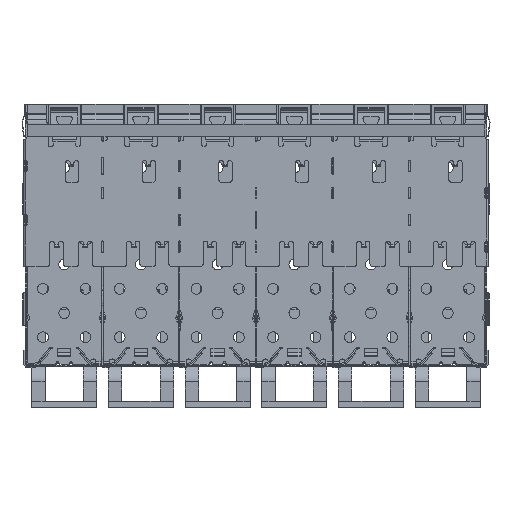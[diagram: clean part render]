
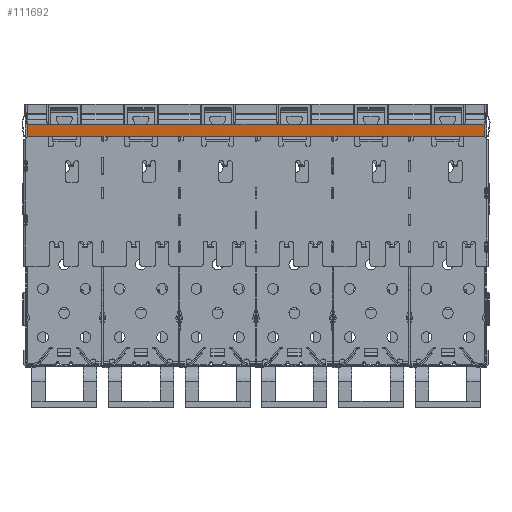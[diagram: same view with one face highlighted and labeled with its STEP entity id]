
A CAD part, front view. The second image highlights one B-rep face of the part: STEP entity #111692.
In plain terms, the highlighted planar face has unit normal (0, -0.992, -0.129).
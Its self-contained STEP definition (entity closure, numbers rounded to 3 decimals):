
#17789=DIRECTION('',(0.,-0.129,0.992));
#17790=VECTOR('',#17789,2.196);
#17791=CARTESIAN_POINT('',(1.667,2.052,-6.));
#17792=LINE('',#17791,#17790);
#17793=DIRECTION('',(1.,0.,0.));
#17794=VECTOR('',#17793,84.9);
#17795=CARTESIAN_POINT('',(1.667,1.768,
-3.823));
#17796=LINE('',#17795,#17794);
#17797=DIRECTION('',(0.,0.129,-0.992));
#17798=VECTOR('',#17797,2.196);
#17799=CARTESIAN_POINT('',(86.567,1.768,
-3.823));
#17800=LINE('',#17799,#17798);
#17801=DIRECTION('',(1.,0.,0.));
#17802=VECTOR('',#17801,14.173);
#17803=CARTESIAN_POINT('',(1.667,2.052,-6.));
#17804=LINE('',#17803,#17802);
#17805=DIRECTION('',(1.,0.,0.));
#17806=VECTOR('',#17805,13.246);
#17807=CARTESIAN_POINT('',(73.322,2.057,
-5.999));
#17808=LINE('',#17807,#17806);
#17809=DIRECTION('',(1.,0.,0.));
#17810=VECTOR('',#17809,13.768);
#17811=CARTESIAN_POINT('',(59.072,2.057,
-5.999));
#17812=LINE('',#17811,#17810);
#17813=DIRECTION('',(1.,0.,0.));
#17814=VECTOR('',#17813,13.768);
#17815=CARTESIAN_POINT('',(44.822,2.057,
-5.999));
#17816=LINE('',#17815,#17814);
#17817=DIRECTION('',(1.,0.,0.));
#17818=VECTOR('',#17817,13.768);
#17819=CARTESIAN_POINT('',(30.572,2.057,
-5.999));
#17820=LINE('',#17819,#17818);
#17821=DIRECTION('',(1.,0.,0.));
#17822=VECTOR('',#17821,13.768);
#17823=CARTESIAN_POINT('',(16.322,2.057,
-5.999));
#17824=LINE('',#17823,#17822);
#17825=CARTESIAN_POINT('',(15.84,2.057,
-5.999));
#17840=DIRECTION('',(1.,-0.001,0.));
#17841=VECTOR('',#17840,0.482);
#17842=CARTESIAN_POINT('',(15.84,2.057,
-5.999));
#17843=LINE('',#17842,#17841);
#21294=CARTESIAN_POINT('',(72.84,2.057,
-5.999));
#21309=DIRECTION('',(1.,-0.001,0.));
#21310=VECTOR('',#21309,0.482);
#21311=CARTESIAN_POINT('',(72.84,2.057,
-5.999));
#21312=LINE('',#21311,#21310);
#26992=CARTESIAN_POINT('',(30.09,2.057,
-5.999));
#27007=DIRECTION('',(1.,-0.001,0.));
#27008=VECTOR('',#27007,0.482);
#27009=CARTESIAN_POINT('',(30.09,2.057,
-5.999));
#27010=LINE('',#27009,#27008);
#30027=CARTESIAN_POINT('',(44.34,2.057,
-5.999));
#30042=DIRECTION('',(1.,-0.001,0.));
#30043=VECTOR('',#30042,0.482);
#30044=CARTESIAN_POINT('',(44.34,2.057,
-5.999));
#30045=LINE('',#30044,#30043);
#33299=CARTESIAN_POINT('',(58.59,2.057,
-5.999));
#33314=DIRECTION('',(1.,-0.001,0.));
#33315=VECTOR('',#33314,0.482);
#33316=CARTESIAN_POINT('',(58.59,2.057,
-5.999));
#33317=LINE('',#33316,#33315);
#83287=CARTESIAN_POINT('',(1.667,1.768,
-3.823));
#83288=VERTEX_POINT('',#83287);
#83332=CARTESIAN_POINT('',(86.567,1.768,
-3.823));
#83333=VERTEX_POINT('',#83332);
#85337=CARTESIAN_POINT('',(86.567,2.052,-6.));
#85339=VERTEX_POINT('',#85337);
#85344=CARTESIAN_POINT('',(1.667,2.052,-6.));
#85346=VERTEX_POINT('',#85344);
#85359=VERTEX_POINT('',#21294);
#85361=CARTESIAN_POINT('',(73.322,2.057,
-5.999));
#85362=VERTEX_POINT('',#85361);
#85382=VERTEX_POINT('',#33299);
#85384=CARTESIAN_POINT('',(59.072,2.057,
-5.999));
#85385=VERTEX_POINT('',#85384);
#85407=VERTEX_POINT('',#30027);
#85409=CARTESIAN_POINT('',(44.822,2.057,
-5.999));
#85410=VERTEX_POINT('',#85409);
#85430=VERTEX_POINT('',#26992);
#85432=CARTESIAN_POINT('',(30.572,2.057,
-5.999));
#85433=VERTEX_POINT('',#85432);
#85453=VERTEX_POINT('',#17825);
#85455=CARTESIAN_POINT('',(16.322,2.057,
-5.999));
#85456=VERTEX_POINT('',#85455);
#111659=CARTESIAN_POINT('',(51.242,1.91,
-4.911));
#111660=DIRECTION('',(0.,0.992,0.129));
#111661=DIRECTION('',(0.,-0.129,0.992));
#111662=AXIS2_PLACEMENT_3D('',#111659,#111660,#111661);
#111663=PLANE('',#111662);
#111665=ORIENTED_EDGE('',*,*,#111664,.F.);
#111666=ORIENTED_EDGE('',*,*,#111630,.T.);
#111667=ORIENTED_EDGE('',*,*,#111403,.T.);
#111669=ORIENTED_EDGE('',*,*,#111668,.T.);
#111671=ORIENTED_EDGE('',*,*,#111670,.F.);
#111673=ORIENTED_EDGE('',*,*,#111672,.F.);
#111675=ORIENTED_EDGE('',*,*,#111674,.F.);
#111677=ORIENTED_EDGE('',*,*,#111676,.F.);
#111679=ORIENTED_EDGE('',*,*,#111678,.F.);
#111681=ORIENTED_EDGE('',*,*,#111680,.F.);
#111683=ORIENTED_EDGE('',*,*,#111682,.F.);
#111685=ORIENTED_EDGE('',*,*,#111684,.F.);
#111687=ORIENTED_EDGE('',*,*,#111686,.F.);
#111689=ORIENTED_EDGE('',*,*,#111688,.F.);
#111690=EDGE_LOOP('',(#111665,#111666,#111667,#111669,#111671,#111673,#111675,
#111677,#111679,#111681,#111683,#111685,#111687,#111689));
#111691=FACE_OUTER_BOUND('',#111690,.F.);
#111403=EDGE_CURVE('',#83288,#83333,#17796,.T.);
#111630=EDGE_CURVE('',#85346,#83288,#17792,.T.);
#111664=EDGE_CURVE('',#85346,#85453,#17804,.T.);
#111668=EDGE_CURVE('',#83333,#85339,#17800,.T.);
#111670=EDGE_CURVE('',#85362,#85339,#17808,.T.);
#111672=EDGE_CURVE('',#85359,#85362,#21312,.T.);
#111674=EDGE_CURVE('',#85385,#85359,#17812,.T.);
#111676=EDGE_CURVE('',#85382,#85385,#33317,.T.);
#111678=EDGE_CURVE('',#85410,#85382,#17816,.T.);
#111680=EDGE_CURVE('',#85407,#85410,#30045,.T.);
#111682=EDGE_CURVE('',#85433,#85407,#17820,.T.);
#111684=EDGE_CURVE('',#85430,#85433,#27010,.T.);
#111686=EDGE_CURVE('',#85456,#85430,#17824,.T.);
#111688=EDGE_CURVE('',#85453,#85456,#17843,.T.);
#111692=ADVANCED_FACE('',(#111691),#111663,.F.);
